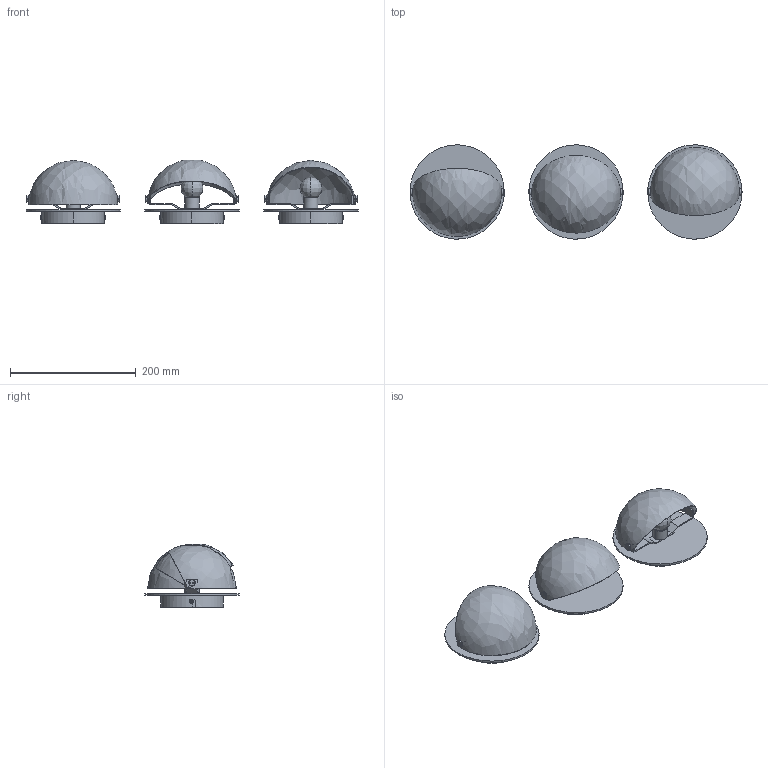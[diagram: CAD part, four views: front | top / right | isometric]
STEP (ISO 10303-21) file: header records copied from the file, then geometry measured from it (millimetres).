
FILE_DESCRIPTION(/* description */ (''),/* implementation_level */ '2;1');
FILE_NAME(/* name */ 'GISARI~1',/* time_stamp */ '2016-09-30T10:14:00+02:00',/* author */ (''),/* organization */ (''),/* preprocessor_version */ 'ST-DEVELOPER v15',/* originating_system */ '',/* authorisation */ '');
FILE_SCHEMA (('AUTOMOTIVE_DESIGN'));
Length unit declared in the file: millimetre
Products named in the file (1): Document
Bounding box: 528.52 x 149.78 x 101.73 mm (x, y, z)
Volume: 792783.3 mm3; surface area: 289877.7 mm2
Topology: 3 solids, 3 shells, 360 faces, 912 edges, 597 vertices
Faces by surface type: plane 210, bspline 150
Entity records: 12640 total; most frequent: CARTESIAN_POINT 7017, ORIENTED_EDGE 1812, EDGE_CURVE 906, VERTEX_POINT 597, B_SPLINE_CURVE_WITH_KNOTS 465, EDGE_LOOP 411, ADVANCED_FACE 360, FACE_OUTER_BOUND 360
